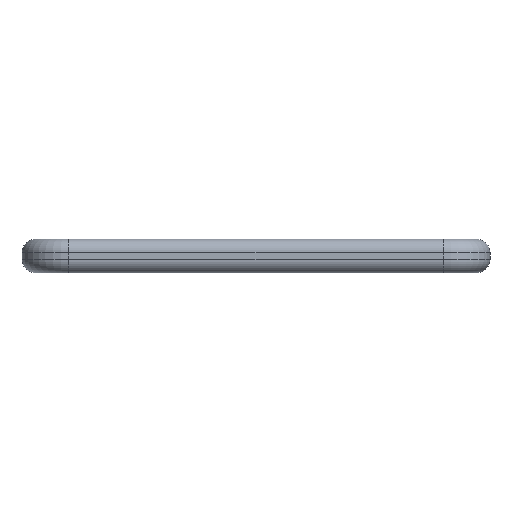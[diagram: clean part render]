
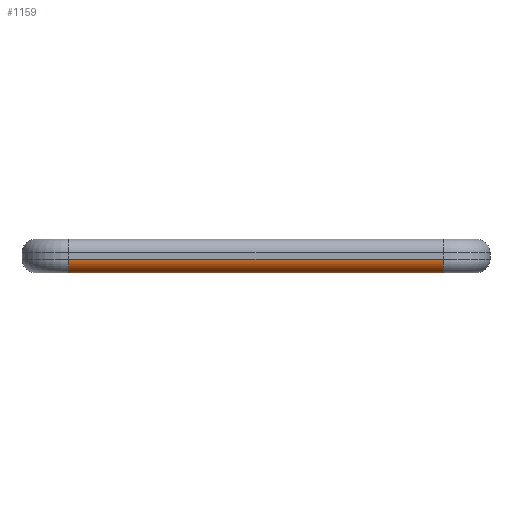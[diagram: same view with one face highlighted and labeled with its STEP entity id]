
A CAD part, front view. The second image highlights one B-rep face of the part: STEP entity #1159.
In plain terms, the highlighted cylindrical face has radius 2 mm (diameter 4 mm), a partial arc.
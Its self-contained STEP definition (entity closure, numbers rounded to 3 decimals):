
#299=CARTESIAN_POINT('',(28.0,-24.0,0.0));
#300=VERTEX_POINT('',#299);
#308=CARTESIAN_POINT('',(-28.0,-24.0,0.0));
#309=VERTEX_POINT('',#308);
#310=CARTESIAN_POINT('',(-28.0,-24.0,0.0));
#311=DIRECTION('',(1.0,0.0,0.0));
#312=VECTOR('',#311,56.);
#313=LINE('',#310,#312);
#314=EDGE_CURVE('',#309,#300,#313,.T.);
#1059=CARTESIAN_POINT('',(28.0,-26.0,2.0));
#1060=VERTEX_POINT('',#1059);
#1068=CARTESIAN_POINT('',(28.0,-24.0,2.0));
#1069=DIRECTION('',(1.0,0.0,0.0));
#1070=DIRECTION('',(0.0,-1.0,0.0));
#1071=AXIS2_PLACEMENT_3D('',#1068,#1069,#1070);
#1072=CIRCLE('',#1071,2.);
#1073=EDGE_CURVE('',#1060,#300,#1072,.T.);
#1135=CARTESIAN_POINT('',(-31.768,-24.0,2.0));
#1136=DIRECTION('',(1.0,0.0,0.0));
#1137=DIRECTION('',(0.0,-0.707,-0.707));
#1138=AXIS2_PLACEMENT_3D('',#1135,#1136,#1137);
#1139=CYLINDRICAL_SURFACE('',#1138,2.0);
#1140=ORIENTED_EDGE('',*,*,#1073,.F.);
#1141=CARTESIAN_POINT('',(-28.0,-26.,2.0));
#1142=VERTEX_POINT('',#1141);
#1143=CARTESIAN_POINT('',(28.,-26.0,2.0));
#1144=DIRECTION('',(-1.0,0.0,0.0));
#1145=VECTOR('',#1144,56.);
#1146=LINE('',#1143,#1145);
#1147=EDGE_CURVE('',#1060,#1142,#1146,.T.);
#1148=ORIENTED_EDGE('',*,*,#1147,.T.);
#1149=CARTESIAN_POINT('',(-28.0,-24.0,2.0));
#1150=DIRECTION('',(-1.0,0.0,0.0));
#1151=DIRECTION('',(0.0,0.0,-1.0));
#1152=AXIS2_PLACEMENT_3D('',#1149,#1150,#1151);
#1153=CIRCLE('',#1152,2.0);
#1154=EDGE_CURVE('',#309,#1142,#1153,.T.);
#1155=ORIENTED_EDGE('',*,*,#1154,.F.);
#1156=ORIENTED_EDGE('',*,*,#314,.T.);
#1157=EDGE_LOOP('',(#1140,#1148,#1155,#1156));
#1158=FACE_OUTER_BOUND('',#1157,.T.);
#1159=ADVANCED_FACE('',(#1158),#1139,.T.);
